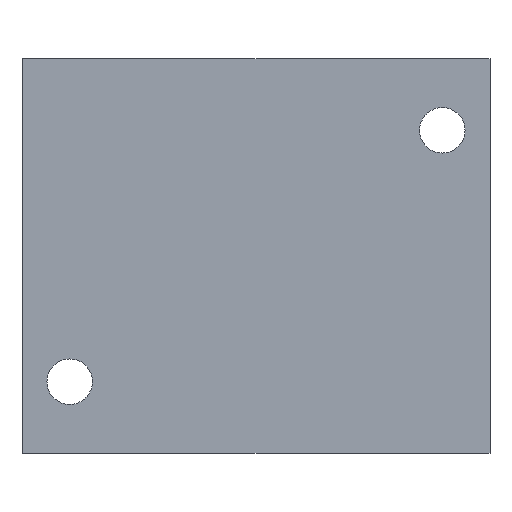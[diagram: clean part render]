
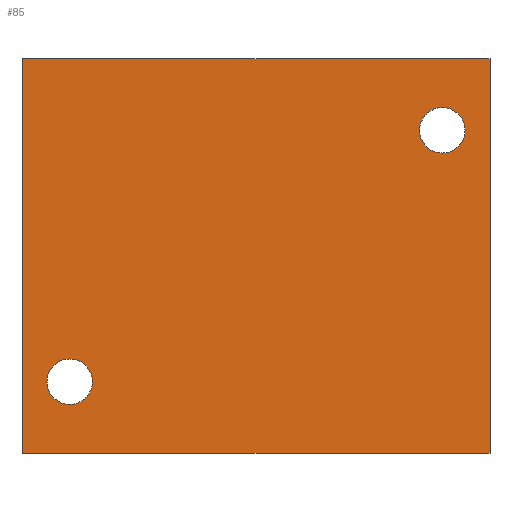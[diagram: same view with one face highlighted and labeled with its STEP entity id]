
A CAD part, front view. The second image highlights one B-rep face of the part: STEP entity #85.
In plain terms, the highlighted planar face has unit normal (0, -1, 0).
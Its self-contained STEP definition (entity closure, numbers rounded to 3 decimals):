
#85=ADVANCED_FACE('',(#192,#193,#194),#195,.T.);
#192=FACE_BOUND('',#444,.T.);
#193=FACE_BOUND('',#445,.T.);
#194=FACE_OUTER_BOUND('',#446,.T.);
#195=PLANE('',#447);
#444=EDGE_LOOP('',(#744));
#445=EDGE_LOOP('',(#745));
#446=EDGE_LOOP('',(#746,#747,#748,#749));
#447=AXIS2_PLACEMENT_3D('',#750,#751,#752);
#744=ORIENTED_EDGE('',*,*,#1288,.T.);
#745=ORIENTED_EDGE('',*,*,#1289,.T.);
#746=ORIENTED_EDGE('',*,*,#1290,.F.);
#747=ORIENTED_EDGE('',*,*,#1291,.F.);
#748=ORIENTED_EDGE('',*,*,#1292,.T.);
#749=ORIENTED_EDGE('',*,*,#1286,.T.);
#750=CARTESIAN_POINT('',(54.0,-45.0,45.5));
#751=DIRECTION('',(0.0,-1.0,0.0));
#752=DIRECTION('',(1.0,0.0,0.0));
#1286=EDGE_CURVE('',#1473,#1471,#1474,.T.);
#1288=EDGE_CURVE('',#1476,#1476,#1477,.T.);
#1289=EDGE_CURVE('',#1478,#1478,#1479,.T.);
#1290=EDGE_CURVE('',#1480,#1471,#1481,.T.);
#1291=EDGE_CURVE('',#1482,#1480,#1483,.T.);
#1292=EDGE_CURVE('',#1482,#1473,#1484,.T.);
#1471=VERTEX_POINT('',#1795);
#1473=VERTEX_POINT('',#1798);
#1474=LINE('',#1799,#1800);
#1476=VERTEX_POINT('',#1803);
#1477=CIRCLE('',#1804,5.25);
#1478=VERTEX_POINT('',#1805);
#1479=CIRCLE('',#1806,5.25);
#1480=VERTEX_POINT('',#1807);
#1481=LINE('',#1808,#1809);
#1482=VERTEX_POINT('',#1810);
#1483=LINE('',#1811,#1812);
#1484=LINE('',#1813,#1814);
#1795=CARTESIAN_POINT('',(-54.0,-45.0,-45.5));
#1798=CARTESIAN_POINT('',(-54.0,-45.0,45.5));
#1799=CARTESIAN_POINT('',(-54.0,-45.0,45.5));
#1800=VECTOR('',#2093,1.0);
#1803=CARTESIAN_POINT('',(43.0,-45.0,34.25));
#1804=AXIS2_PLACEMENT_3D('',#2095,#2096,#2097);
#1805=CARTESIAN_POINT('',(-43.0,-45.0,-34.25));
#1806=AXIS2_PLACEMENT_3D('',#2098,#2099,#2100);
#1807=CARTESIAN_POINT('',(54.0,-45.0,-45.5));
#1808=CARTESIAN_POINT('',(54.0,-45.0,-45.5));
#1809=VECTOR('',#2101,1.0);
#1810=CARTESIAN_POINT('',(54.0,-45.0,45.5));
#1811=CARTESIAN_POINT('',(54.0,-45.0,45.5));
#1812=VECTOR('',#2102,1.0);
#1813=CARTESIAN_POINT('',(54.0,-45.0,45.5));
#1814=VECTOR('',#2103,1.0);
#2093=DIRECTION('',(0.0,0.0,-1.0));
#2095=CARTESIAN_POINT('',(43.0,-45.0,29.0));
#2096=DIRECTION('',(0.0,1.0,0.0));
#2097=DIRECTION('',(0.,0.0,1.0));
#2098=CARTESIAN_POINT('',(-43.0,-45.0,-29.0));
#2099=DIRECTION('',(0.0,1.0,0.0));
#2100=DIRECTION('',(0.0,0.0,-1.0));
#2101=DIRECTION('',(-1.0,0.0,0.0));
#2102=DIRECTION('',(0.0,0.0,-1.0));
#2103=DIRECTION('',(-1.0,0.0,0.0));
